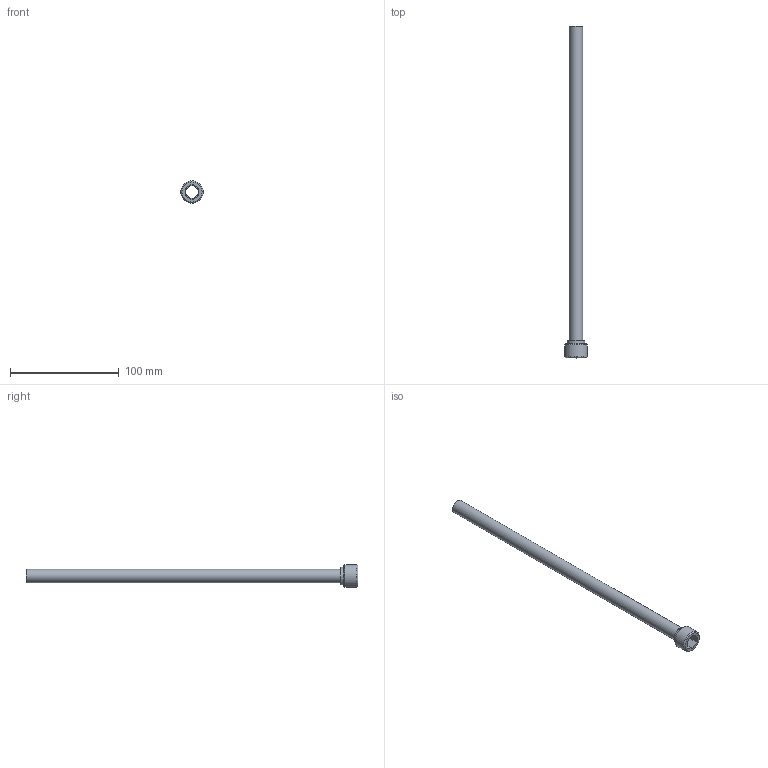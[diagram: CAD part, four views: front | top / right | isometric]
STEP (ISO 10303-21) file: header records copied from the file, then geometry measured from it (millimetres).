
FILE_DESCRIPTION(/* description */ (''),/* implementation_level */ '2;1');
FILE_NAME(/* name */ 'C:/Users/drich/Desktop/PT12-500-12 v1.step',/* time_stamp */ '2019-12-27T14:58:20-06:00',/* author */ (''),/* organization */ (''),/* preprocessor_version */ 'ST-DEVELOPER v18',/* originating_system */ 'Autodesk Translation Framework v8.12.0.6',/* authorisation */ '');
FILE_SCHEMA (('AUTOMOTIVE_DESIGN { 1 0 10303 214 3 1 1 }'));
Length unit declared in the file: inch
Products named in the file (1): PT12-500-12
Bounding box: 20.81 x 304.8 x 20.81 mm (x, y, z)
Volume: 10644.4 mm3; surface area: 23792.9 mm2
Topology: 1 solids, 1 shells, 19 faces, 48 edges, 34 vertices
Faces by surface type: plane 11, cylinder 4, torus 2, cone 2
Full cylindrical faces by diameter (mm): 11.278 x1, 12.7 x1, 15.85 x1, 20.813 x1
Entity records: 633 total; most frequent: DIRECTION 112, CARTESIAN_POINT 102, ORIENTED_EDGE 96, EDGE_CURVE 48, AXIS2_PLACEMENT_3D 44, VERTEX_POINT 34, CIRCLE 24, EDGE_LOOP 24
